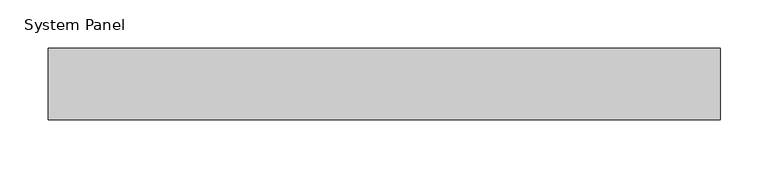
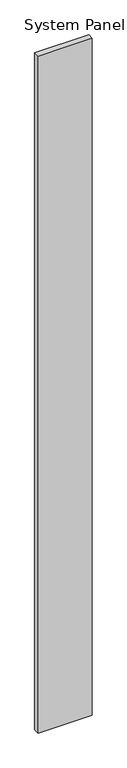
"""IFC4 building model written with IfcOpenShell, lengths in millimetres: plate geometry, System Panel : SolarSpan 75mm Roof - Plain Surfmist."""

import ifcopenshell
import ifcopenshell.guid

model = None  # the IFC model being written
_history = None  # IfcOwnerHistory: only IFC2X3 demands one
_inside = {}  # id of a spatial element -> (the spatial element, [elements in it])
_under = {}  # id of a project, library or spatial element -> (it, [spatial elements below it])
_declared = {}  # id of a project -> (the project, [libraries it declares])
_typed = {}  # id of a type object -> (the type object, [elements of that type])
_made_of = {}  # id of a material, layer set ... -> (it, [elements and type objects made of it])


def new_model(schema):
    """Start an empty IFC model of exactly this schema.

    Asked for "IFC4X3", IfcOpenShell would pick the latest addendum, in which some entities
    have other attributes; the version numbers below select the first issue.
    IFC2X3 requires an IfcOwnerHistory on every rooted entity: one is made here for all.
    """
    global model, _history
    if schema == "IFC4X3":
        model = ifcopenshell.file(schema_version=(4, 3, 0, 0))
    else:
        model = ifcopenshell.file(schema=schema)
    _inside.clear()
    _under.clear()
    _declared.clear()
    _typed.clear()
    _made_of.clear()
    _history = None
    if model.schema == "IFC2X3":
        org = make("IfcOrganization", Name="unknown")
        user = make(
            "IfcPersonAndOrganization",
            ThePerson=make("IfcPerson", FamilyName="unknown"),
            TheOrganization=org,
        )
        app = make(
            "IfcApplication",
            ApplicationDeveloper=org,
            Version="unknown",
            ApplicationFullName="unknown",
            ApplicationIdentifier="unknown",
        )
        _history = make(
            "IfcOwnerHistory",
            OwningUser=user,
            OwningApplication=app,
            ChangeAction="ADDED",
            CreationDate=0,
        )
    return model


def make(cls, **values):
    """One entity of the class cls with the attributes given. An attribute that is None is left unset."""
    return model.create_entity(
        cls, **{name: value for name, value in values.items() if value is not None}
    )


def rooted(cls, **values):
    """An entity with a GlobalId (a new one), such as an element, a storey or a relation."""
    return make(cls, GlobalId=ifcopenshell.guid.new(), OwnerHistory=_history, **values)


def si_unit(unit_type, name, prefix=None):
    """IfcSIUnit, for example si_unit("LENGTHUNIT", "METRE", prefix="MILLI")."""
    return make("IfcSIUnit", UnitType=unit_type, Prefix=prefix, Name=name)


def assignment(units):
    """IfcUnitAssignment: the units of a project."""
    return None if units is None else make("IfcUnitAssignment", Units=units)


def point(xyz):
    """IfcCartesianPoint."""
    return None if xyz is None else make("IfcCartesianPoint", Coordinates=xyz)


def direction(xyz):
    """IfcDirection."""
    return None if xyz is None else make("IfcDirection", DirectionRatios=xyz)


def frame(location, z_axis=None, x_axis=None):
    """IfcAxis2Placement3D, a coordinate frame: its origin and axes. An axis left out is left unset."""
    return make(
        "IfcAxis2Placement3D",
        Location=point(location),
        Axis=direction(z_axis),
        RefDirection=direction(x_axis),
    )


def origin():
    """The frame at (0, 0, 0) with its axes left unset."""
    return frame((0.0, 0.0, 0.0))


def origin_with_axes():
    """The frame at (0, 0, 0) with the z axis (0, 0, 1) and the x axis (1, 0, 0) written out."""
    return frame((0.0, 0.0, 0.0), z_axis=(0.0, 0.0, 1.0), x_axis=(1.0, 0.0, 0.0))


def place(relative_to, where):
    """IfcLocalPlacement: puts the frame where relative to a parent placement (None: the world)."""
    return make(
        "IfcLocalPlacement", PlacementRelTo=relative_to, RelativePlacement=where
    )


def context(
    kind, dimensions, precision=None, world=None, true_north=None, identifier=None
):
    """IfcGeometricRepresentationContext, for example the 3D "Model" context."""
    return make(
        "IfcGeometricRepresentationContext",
        ContextIdentifier=identifier,
        ContextType=kind,
        CoordinateSpaceDimension=dimensions,
        Precision=precision,
        WorldCoordinateSystem=world,
        TrueNorth=true_north,
    )


def project(units=None, contexts=None):
    """IfcProject with its units and contexts."""
    return rooted(
        "IfcProject",
        Name="project",
        RepresentationContexts=contexts,
        UnitsInContext=assignment(units),
    )


def spatial(cls, under=None, at=None, **own):
    """A site, building, storey or space (cls), placed at a placement, below another one or the project."""
    s = rooted(cls, ObjectPlacement=at, **own)
    if under is not None:
        _under.setdefault(under.id(), (under, []))[1].append(s)
    return s


def polyline(points):
    """IfcPolyline through the points."""
    return make("IfcPolyline", Points=[point(p) for p in points])


def outline(outer, holes=None, kind="AREA"):
    """IfcArbitraryClosedProfileDef: a profile drawn as a closed curve; with holes, ...WithVoids."""
    if holes is None:
        return make("IfcArbitraryClosedProfileDef", ProfileType=kind, OuterCurve=outer)
    return make(
        "IfcArbitraryProfileDefWithVoids",
        ProfileType=kind,
        OuterCurve=outer,
        InnerCurves=holes,
    )


def extrude(swept, where, along, depth):
    """IfcExtrudedAreaSolid: the profile swept, set in the frame where, extruded along a direction by depth."""
    return make(
        "IfcExtrudedAreaSolid",
        SweptArea=swept,
        Position=where,
        ExtrudedDirection=direction(along),
        Depth=depth,
    )


def shape(context_of_items, identifier, shape_type, items):
    """IfcShapeRepresentation: the items that make up one representation, for example the "Body"."""
    return make(
        "IfcShapeRepresentation",
        ContextOfItems=context_of_items,
        RepresentationIdentifier=identifier,
        RepresentationType=shape_type,
        Items=items,
    )


def source(mapping_origin, context_of_items, identifier, shape_type, items):
    """IfcRepresentationMap: a shape defined once, which mapped items show again and again."""
    return make(
        "IfcRepresentationMap",
        MappingOrigin=mapping_origin,
        MappedRepresentation=shape(context_of_items, identifier, shape_type, items),
    )


def transform(
    local_origin,
    x_axis=None,
    y_axis=None,
    z_axis=None,
    scale=None,
    scale2=None,
    scale3=None,
    uniform=True,
):
    """IfcCartesianTransformationOperator3D, or its non-uniform kind. x_axis, y_axis, z_axis: its Axis1, 2, 3."""
    if uniform:
        return make(
            "IfcCartesianTransformationOperator3D",
            Axis1=direction(x_axis),
            Axis2=direction(y_axis),
            LocalOrigin=point(local_origin),
            Scale=scale,
            Axis3=direction(z_axis),
        )
    return make(
        "IfcCartesianTransformationOperator3DnonUniform",
        Axis1=direction(x_axis),
        Axis2=direction(y_axis),
        LocalOrigin=point(local_origin),
        Scale=scale,
        Axis3=direction(z_axis),
        Scale2=scale2,
        Scale3=scale3,
    )


def mapped(mapping_source, mapping_target):
    """IfcMappedItem: shows the shape of a source again, moved by a transform."""
    return make(
        "IfcMappedItem", MappingSource=mapping_source, MappingTarget=mapping_target
    )


def made_of(thing, what):
    """Note that an element or type object is made of a material, layer set ...; save() writes the relation."""
    if what is not None:
        _made_of.setdefault(what.id(), (what, []))[1].append(thing)
    return thing


def element(
    cls,
    number,
    at=None,
    inside=None,
    cuts=None,
    type_object=None,
    material=None,
    context=None,
    identifier="Body",
    shape_type=None,
    held_by="IfcProductDefinitionShape",
    body=None,
    shapes=None,
    **own,
):
    """One element of the class cls, such as IfcWall. Its Tag is "e" and its number.

    at: its placement. inside: the storey or other place that contains it. cuts: it is an
    opening in that element (IfcRelVoidsElement). A single representation is given by context,
    identifier, shape_type and body (its items); several are given by shapes. held_by: the class
    of the entity that holds the representations. save() writes the other relations.
    """
    e = rooted(cls, Tag="e%d" % number, ObjectPlacement=at, **own)
    if body is not None:
        shapes = [shape(context, identifier, shape_type, body)]
    if shapes is not None:
        e.Representation = make(held_by, Representations=shapes)
    if inside is not None:
        _inside.setdefault(inside.id(), (inside, []))[1].append(e)
    if cuts is not None:
        rooted(
            "IfcRelVoidsElement", RelatingBuildingElement=cuts, RelatedOpeningElement=e
        )
    if type_object is not None:
        _typed.setdefault(type_object.id(), (type_object, []))[1].append(e)
    return made_of(e, material)


def aggregate(whole, parts):
    """IfcRelAggregates: a whole, such as a stair, and the parts it consists of."""
    return rooted("IfcRelAggregates", RelatingObject=whole, RelatedObjects=parts)


def save(model, path):
    """Write the relations noted so far, then the file.

    IfcRelAggregates (storeys below a building ...), IfcRelContainedInSpatialStructure (elements
    in a storey), IfcRelDefinesByType, IfcRelAssociatesMaterial and IfcRelDeclares: one each for
    every whole, place, type object, material and project.
    """
    for whole, parts in _under.values():
        aggregate(whole, parts)
    for where, things in _inside.values():
        rooted(
            "IfcRelContainedInSpatialStructure",
            RelatedElements=things,
            RelatingStructure=where,
        )
    for kind, things in _typed.values():
        rooted("IfcRelDefinesByType", RelatedObjects=things, RelatingType=kind)
    for what, things in _made_of.values():
        rooted("IfcRelAssociatesMaterial", RelatedObjects=things, RelatingMaterial=what)
    for by, libraries in _declared.values():
        rooted("IfcRelDeclares", RelatingContext=by, RelatedDefinitions=libraries)
    model.write(path)


def system_panel_bee71b98(model_context):
    return source(origin(), model_context, "Body", "SweptSolid", [
        extrude(outline(polyline([(350.0, -75.0), (-350.0, -75.0), (-350.0, 0.0), (350.0, 0.0), (350.0, -75.0)])), origin_with_axes(), (0.0, 0.0, 1.0), 9240.3821682),
    ])


if __name__ == "__main__":
    model = new_model("IFC4")
    model_context = context("Model", 3, world=origin())
    ifc_project = project(units=[si_unit("LENGTHUNIT", "METRE", prefix="MILLI")], contexts=[model_context])
    site = spatial("IfcSite", under=ifc_project)
    building = spatial("IfcBuilding", under=site)
    placement = place(None, origin())
    system_panel_shape = system_panel_bee71b98(model_context)
    element("IfcPlate", 1, ObjectType="System Panel : SolarSpan 75mm Roof - Plain Surfmist", at=placement, inside=building, context=model_context, shape_type="MappedRepresentation", body=[
        mapped(system_panel_shape, transform((0.0, 0.0, 0.0), x_axis=(1.0, 0.0, 0.0), y_axis=(0.0, 1.0, 0.0), z_axis=(0.0, 0.0, 1.0))),
    ])
    save(model, "model.ifc")
